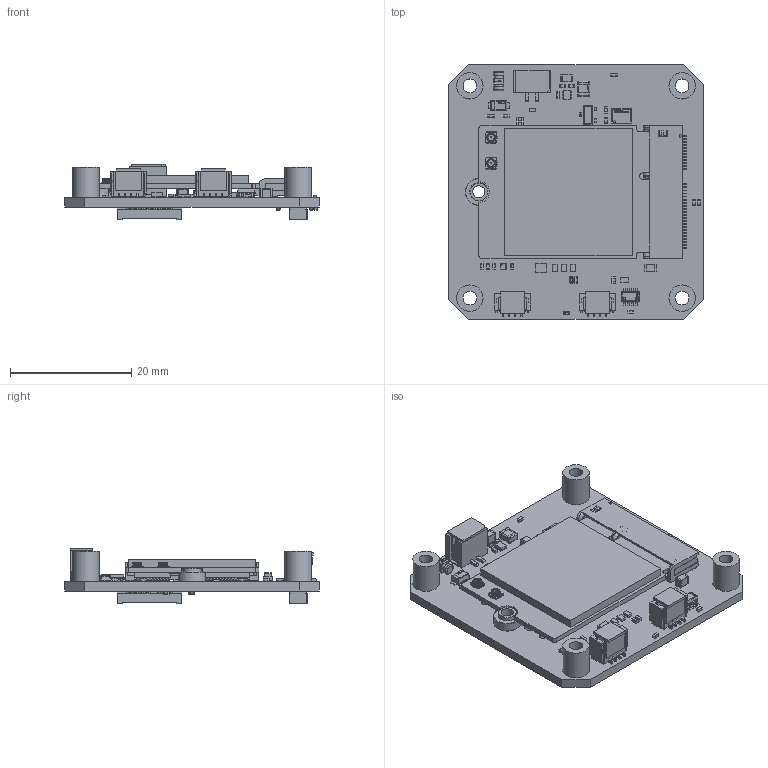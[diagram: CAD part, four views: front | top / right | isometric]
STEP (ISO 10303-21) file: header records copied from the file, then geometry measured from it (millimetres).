
FILE_DESCRIPTION(('FreeCAD Model'),'2;1');
FILE_NAME('Open CASCADE Shape Model','2025-04-24T07:44:20',(''),(''), 'Open CASCADE STEP processor 7.6','FreeCAD','Unknown');
FILE_SCHEMA(('AUTOMOTIVE_DESIGN { 1 0 10303 214 1 1 1 1 }'));
Length unit declared in the file: millimetre
Products named in the file (449): PCIe-Adapter_wifi_revA; Board; Open CASCADE STEP translator 7.5 420.1.1; Designator74; M.2-22x30_wifi_card; M.2-22x30_wifi_card001; M.2-22x30_wifi_card004; M.2-22x30_wifi_card002; M.2-22x30_wifi_card003; M.2-22x30_wifi_card008; M.2-22x30_wifi_card005; M.2-22x30_wifi_card006; M.2-22x30_wifi_card007; M.2-22x30_wifi_card009; M.2-22x30_wifi_card010; M.2-22x30_wifi_card011; M.2-22x30_wifi_card012; M.2-22x30_wifi_card015; M.2-22x30_wifi_card013; M.2-22x30_wifi_card014; M.2-22x30_wifi_card019; M.2-22x30_wifi_card016; M.2-22x30_wifi_card017; M.2-22x30_wifi_card018; M.2-22x30_wifi_card020; M.2-22x30_wifi_card021; M.2-22x30_wifi_card022; M.2-22x30_wifi_card023; C12; 6568144784; Terminal; Open CASCADE STEP translator 6.8 17.1.1; Open CASCADE STEP translator 6.8 17.1.2; Mid_Body; Open CASCADE STEP translator 6.8 17.2.1; CR1; 6568142304004; 6568142304; 6568142304001; 6568142304002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
Assembly tree (651 placements, depth 6):
  PCIe-Adapter_wifi_revA
    Board
      Open CASCADE STEP translator 7.5 420.1.1
    Designator74
      M.2-22x30_wifi_card
      M.2-22x30_wifi_card001
      M.2-22x30_wifi_card004
        M.2-22x30_wifi_card002
        M.2-22x30_wifi_card003
      M.2-22x30_wifi_card008
        M.2-22x30_wifi_card005
        M.2-22x30_wifi_card006
        M.2-22x30_wifi_card007
      M.2-22x30_wifi_card009
      M.2-22x30_wifi_card010
      M.2-22x30_wifi_card011
      M.2-22x30_wifi_card012
      M.2-22x30_wifi_card015
        M.2-22x30_wifi_card013
        M.2-22x30_wifi_card014
      M.2-22x30_wifi_card019
        M.2-22x30_wifi_card016
        M.2-22x30_wifi_card017
        M.2-22x30_wifi_card018
      M.2-22x30_wifi_card020
      M.2-22x30_wifi_card021
      M.2-22x30_wifi_card022
      M.2-22x30_wifi_card023
    C12
      6568144784
        Terminal
          Open CASCADE STEP translator 6.8 17.1.1
          Open CASCADE STEP translator 6.8 17.1.2
        Mid_Body
          Open CASCADE STEP translator 6.8 17.2.1
    CR1
      6568142304004
        6568142304
        6568142304001
        6568142304002
        6568142304003
    FL1
      Filter_Murata_NFE31ZT220R1E9L_eec
        body003
          body
          body001
          body002
        center
        logo_
    D1
      Diode_Nexperia_PTVS7V0S1UR_115_eec
        1
        2002
          2
          2001
        3
        Nexperia Logo012
          Nexperia Logo
          Nexperia Logo001
          Nexperia Logo002
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Bounding box: 42 x 42 x 9.16 mm (x, y, z)
Volume: 4743.6 mm3; surface area: 9196.3 mm2
Topology: 448 solids, 448 shells, 10459 faces, 25992 edges, 16290 vertices
Faces by surface type: plane 5422, cylinder 3200, torus 811, bspline 617, sphere 390, cone 17, revolution 2
Full cylindrical faces by diameter (mm): 0.05 x1, 0.06 x1, 0.082 x1, 0.184 x6, 0.271 x1, 0.4 x1, 0.5 x4, 1.076 x2, 1.1 x1, 1.418 x2, 1.492 x1, 1.5 x4, 1.6 x1, 1.75 x2, 2 x3, 2.25 x4, 2.5 x1, 2.65 x1, 2.8 x4, 3 x5, 4.35 x4, 4.5 x1
Entity records: 228998 total; most frequent: CARTESIAN_POINT 46172, ORIENTED_EDGE 34662, DIRECTION 34203, EDGE_CURVE 17331, LINE 11584, VECTOR 11584, AXIS2_PLACEMENT_3D 11309, VERTEX_POINT 11094
